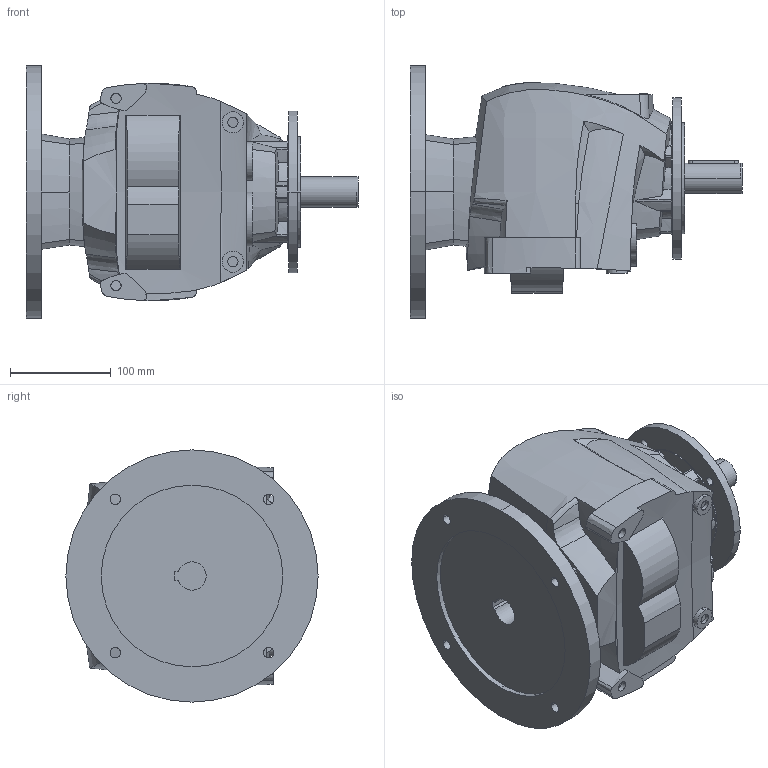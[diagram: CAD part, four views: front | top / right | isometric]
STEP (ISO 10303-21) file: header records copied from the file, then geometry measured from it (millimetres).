
FILE_DESCRIPTION((''),'2;1');
FILE_NAME('R30_160_PAM100112','2013-11-24T',('Luca'),(''),'PRO/ENGINEER BY PARAMETRIC TECHNOLOGY CORPORATION, 2008230','PRO/ENGINEER BY PARAMETRIC TECHNOLOGY CORPORATION, 2008230','');
FILE_SCHEMA(('CONFIG_CONTROL_DESIGN'));
Length unit declared in the file: millimetre
Products named in the file (1): R30_160_PAM100112
Bounding box: 329 x 250 x 250 mm (x, y, z)
Volume: 6912197.2 mm3; surface area: 356659 mm2
Topology: 6 solids, 12 shells, 410 faces, 1086 edges, 728 vertices
Faces by surface type: plane 153, cylinder 125, bspline 83, cone 26, extrusion 19, torus 4
Entity records: 16591 total; most frequent: CARTESIAN_POINT 7113, ORIENTED_EDGE 2164, DIRECTION 1586, EDGE_CURVE 1082, VERTEX_POINT 727, AXIS2_PLACEMENT_3D 541, VECTOR 504, LINE 485
